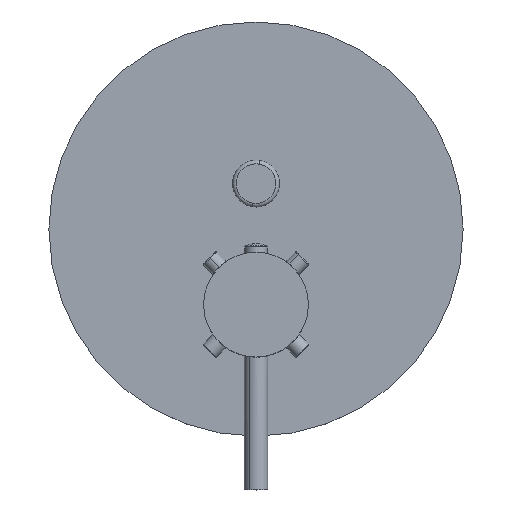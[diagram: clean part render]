
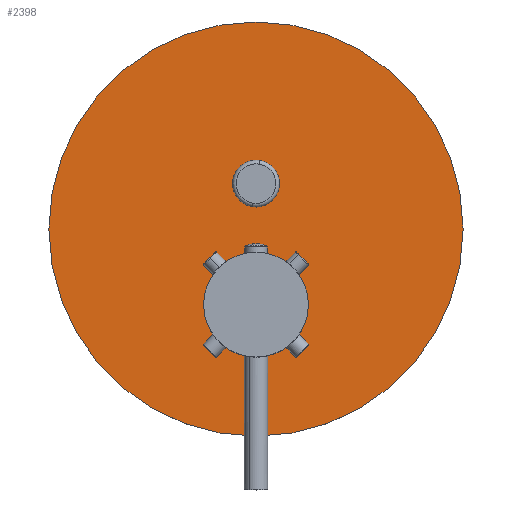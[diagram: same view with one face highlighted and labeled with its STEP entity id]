
A CAD part, top view. The second image highlights one B-rep face of the part: STEP entity #2398.
In plain terms, the highlighted planar face has unit normal (0, 0, 1).
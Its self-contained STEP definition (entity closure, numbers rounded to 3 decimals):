
#20 = AXIS2_PLACEMENT_3D ( 'NONE', #3523, #1026, #1721 ) ;
#79 = VERTEX_POINT ( 'NONE', #4149 ) ;
#94 = AXIS2_PLACEMENT_3D ( 'NONE', #2998, #4424, #1304 ) ;
#139 = PLANE ( 'NONE',  #1989 ) ;
#151 = DIRECTION ( 'NONE',  ( 0.174, 0.985, 0. ) ) ;
#460 = EDGE_LOOP ( 'NONE', ( #2629, #4180 ) ) ;
#489 = DIRECTION ( 'NONE',  ( 0., 0., 1. ) ) ;
#774 = CARTESIAN_POINT ( 'NONE',  ( -88.9, 0., 10. ) ) ;
#879 = CIRCLE ( 'NONE', #1040, 22.5 ) ;
#938 = FACE_OUTER_BOUND ( 'NONE', #4190, .T. ) ;
#947 = VERTEX_POINT ( 'NONE', #3432 ) ;
#1020 = VERTEX_POINT ( 'NONE', #774 ) ;
#1026 = DIRECTION ( 'NONE',  ( 0., 0., 1. ) ) ;
#1040 = AXIS2_PLACEMENT_3D ( 'NONE', #1934, #489, #2321 ) ;
#1237 = DIRECTION ( 'NONE',  ( 1., 0., 0. ) ) ;
#1294 = ORIENTED_EDGE ( 'NONE', *, *, #3447, .T. ) ;
#1304 = DIRECTION ( 'NONE',  ( 1., 0., 0. ) ) ;
#1313 = CARTESIAN_POINT ( 'NONE',  ( 88.9, 0., 10. ) ) ;
#1470 = CIRCLE ( 'NONE', #2740, 8.5 ) ;
#1573 = DIRECTION ( 'NONE',  ( 0., 0., 1. ) ) ;
#1626 = EDGE_CURVE ( 'NONE', #947, #79, #1470, .T. ) ;
#1717 = ORIENTED_EDGE ( 'NONE', *, *, #3677, .T. ) ;
#1721 = DIRECTION ( 'NONE',  ( 1., 0., 0. ) ) ;
#1934 = CARTESIAN_POINT ( 'NONE',  ( 0., -32.5, 10. ) ) ;
#1985 = FACE_BOUND ( 'NONE', #460, .T. ) ;
#1989 = AXIS2_PLACEMENT_3D ( 'NONE', #4449, #1573, #1237 ) ;
#2018 = DIRECTION ( 'NONE',  ( 0., 0., -1. ) ) ;
#2047 = CIRCLE ( 'NONE', #4234, 22.5 ) ;
#2182 = EDGE_CURVE ( 'NONE', #79, #947, #2675, .T. ) ;
#2239 = ORIENTED_EDGE ( 'NONE', *, *, #1626, .T. ) ;
#2321 = DIRECTION ( 'NONE',  ( 0., -1., 0. ) ) ;
#2340 = CARTESIAN_POINT ( 'NONE',  ( 0., 19.5, 10. ) ) ;
#2398 = ADVANCED_FACE ( 'NONE', ( #1985, #938, #3044 ), #139, .T. ) ;
#2511 = DIRECTION ( 'NONE',  ( 0., 0., 1. ) ) ;
#2573 = CIRCLE ( 'NONE', #94, 88.9 ) ;
#2588 = CARTESIAN_POINT ( 'NONE',  ( 22.5, -32.5, 10. ) ) ;
#2629 = ORIENTED_EDGE ( 'NONE', *, *, #3068, .F. ) ;
#2650 = CIRCLE ( 'NONE', #20, 88.9 ) ;
#2675 = CIRCLE ( 'NONE', #4098, 8.5 ) ;
#2740 = AXIS2_PLACEMENT_3D ( 'NONE', #3406, #2018, #4090 ) ;
#2766 = EDGE_CURVE ( 'NONE', #4529, #3951, #879, .T. ) ;
#2964 = DIRECTION ( 'NONE',  ( 0., 0., -1. ) ) ;
#2998 = CARTESIAN_POINT ( 'NONE',  ( 0., 0., 10. ) ) ;
#3044 = FACE_BOUND ( 'NONE', #4199, .T. ) ;
#3068 = EDGE_CURVE ( 'NONE', #3951, #4529, #2047, .T. ) ;
#3312 = CARTESIAN_POINT ( 'NONE',  ( -22.5, -32.5, 10. ) ) ;
#3406 = CARTESIAN_POINT ( 'NONE',  ( 0., 19.5, 10. ) ) ;
#3432 = CARTESIAN_POINT ( 'NONE',  ( -1.476, 11.129, 10. ) ) ;
#3447 = EDGE_CURVE ( 'NONE', #4284, #1020, #2650, .T. ) ;
#3523 = CARTESIAN_POINT ( 'NONE',  ( 0., 0., 10. ) ) ;
#3677 = EDGE_CURVE ( 'NONE', #1020, #4284, #2573, .T. ) ;
#3892 = DIRECTION ( 'NONE',  ( 0., -1., 0. ) ) ;
#3951 = VERTEX_POINT ( 'NONE', #3312 ) ;
#4019 = ORIENTED_EDGE ( 'NONE', *, *, #2182, .T. ) ;
#4090 = DIRECTION ( 'NONE',  ( 0.174, 0.985, 0. ) ) ;
#4098 = AXIS2_PLACEMENT_3D ( 'NONE', #2340, #2964, #151 ) ;
#4149 = CARTESIAN_POINT ( 'NONE',  ( 1.476, 27.871, 10. ) ) ;
#4180 = ORIENTED_EDGE ( 'NONE', *, *, #2766, .F. ) ;
#4190 = EDGE_LOOP ( 'NONE', ( #1717, #1294 ) ) ;
#4199 = EDGE_LOOP ( 'NONE', ( #4019, #2239 ) ) ;
#4234 = AXIS2_PLACEMENT_3D ( 'NONE', #4235, #2511, #3892 ) ;
#4235 = CARTESIAN_POINT ( 'NONE',  ( 0., -32.5, 10. ) ) ;
#4284 = VERTEX_POINT ( 'NONE', #1313 ) ;
#4424 = DIRECTION ( 'NONE',  ( 0., 0., 1. ) ) ;
#4449 = CARTESIAN_POINT ( 'NONE',  ( 0., 0., 10. ) ) ;
#4529 = VERTEX_POINT ( 'NONE', #2588 ) ;
